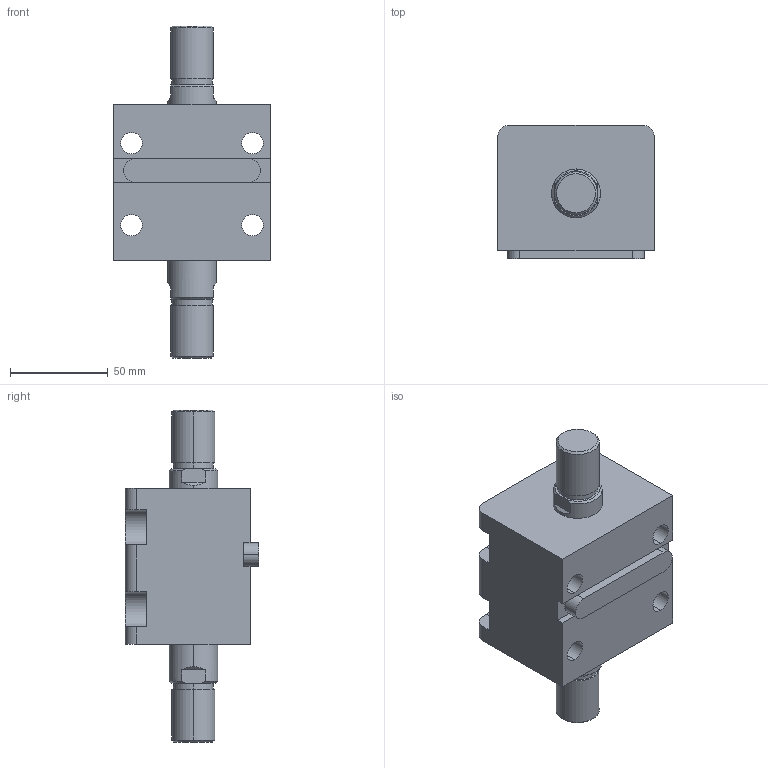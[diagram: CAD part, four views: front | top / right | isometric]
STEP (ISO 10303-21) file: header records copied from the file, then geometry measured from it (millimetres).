
FILE_DESCRIPTION (( 'STEP AP203' ), '1' );
FILE_NAME ('HTB-LW40-10W.STEP', '2019-10-09T07:53:27', ( '微软用户' ), ( '微软中国' ), 'SwSTEP 2.0', 'SolidWorks 2012', '' );
FILE_SCHEMA (( 'CONFIG_CONTROL_DESIGN' ));
Length unit declared in the file: millimetre
Products named in the file (4): HTB-LW40-10W; HTB-LA40-瑩; HTB-LW40-10W活塞杆; HTB-LW40-10掛极
Assembly tree (3 placements, depth 2):
  HTB-LW40-10W
    HTB-LW40-10掛极
    HTB-LW40-10W活塞杆
    HTB-LA40-瑩
Bounding box: 80 x 68.5 x 170 mm (x, y, z)
Volume: 406029.5 mm3; surface area: 68906.5 mm2
Topology: 3 solids, 3 shells, 113 faces, 273 edges, 178 vertices
Faces by surface type: plane 48, cylinder 45, cone 12, torus 8
Entity records: 3779 total; most frequent: CARTESIAN_POINT 622, DIRECTION 617, ORIENTED_EDGE 546, EDGE_CURVE 273, AXIS2_PLACEMENT_3D 241, VERTEX_POINT 178, VECTOR 135, LINE 135
